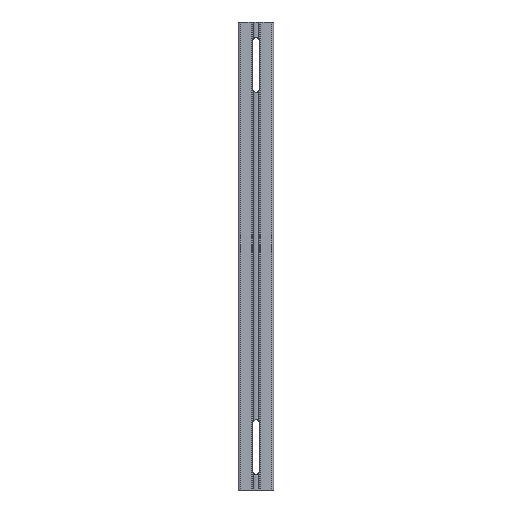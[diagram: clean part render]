
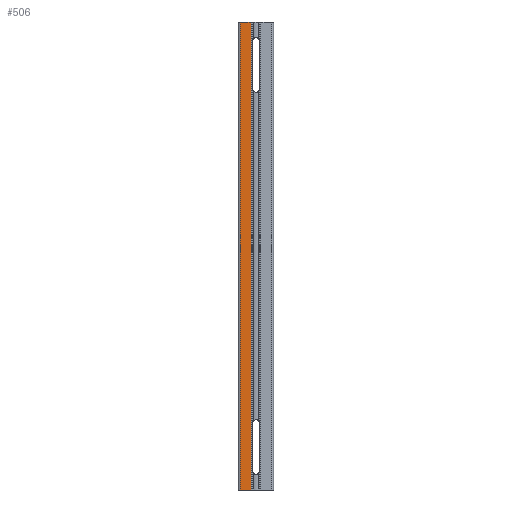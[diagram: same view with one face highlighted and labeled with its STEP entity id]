
A CAD part, left-side view. The second image highlights one B-rep face of the part: STEP entity #506.
In plain terms, the highlighted planar face has unit normal (-1, 0, 0).
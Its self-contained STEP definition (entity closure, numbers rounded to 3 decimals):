
#290=PLANE('',#4869);
#506=ADVANCED_FACE('',(#828),#290,.T.);
#828=FACE_OUTER_BOUND('',#1052,.T.);
#1052=EDGE_LOOP('',(#1548,#1549,#1550,#1551));
#1548=ORIENTED_EDGE('',*,*,#3357,.F.);
#1549=ORIENTED_EDGE('',*,*,#3358,.F.);
#1550=ORIENTED_EDGE('',*,*,#3359,.T.);
#1551=ORIENTED_EDGE('',*,*,#3355,.T.);
#2844=VERTEX_POINT('',#7096);
#2845=VERTEX_POINT('',#7098);
#2846=VERTEX_POINT('',#7102);
#2847=VERTEX_POINT('',#7104);
#3355=EDGE_CURVE('',#2845,#2844,#3936,.T.);
#3357=EDGE_CURVE('',#2846,#2844,#3937,.T.);
#3358=EDGE_CURVE('',#2847,#2846,#3938,.T.);
#3359=EDGE_CURVE('',#2847,#2845,#3939,.T.);
#3936=LINE('',#7097,#4392);
#3937=LINE('',#7101,#4393);
#3938=LINE('',#7103,#4394);
#3939=LINE('',#7105,#4395);
#4392=VECTOR('',#5521,1.);
#4393=VECTOR('',#5526,1.);
#4394=VECTOR('',#5527,1.);
#4395=VECTOR('',#5528,1.);
#4869=AXIS2_PLACEMENT_3D('',#7106,#5529,#5530);
#5521=DIRECTION('',(0.,0.,-1.));
#5526=DIRECTION('',(0.,1.,0.));
#5527=DIRECTION('',(0.,0.,-1.));
#5528=DIRECTION('',(0.,1.,0.));
#5529=DIRECTION('',(-1.,0.,0.));
#5530=DIRECTION('',(0.,-1.,0.));
#7096=CARTESIAN_POINT('',(-22.5,20.,-600.));
#7097=CARTESIAN_POINT('',(-22.5,20.,0.));
#7098=CARTESIAN_POINT('',(-22.5,20.,0.));
#7101=CARTESIAN_POINT('',(-22.5,6.2,-600.));
#7102=CARTESIAN_POINT('',(-22.5,6.2,-600.));
#7103=CARTESIAN_POINT('',(-22.5,6.2,0.));
#7104=CARTESIAN_POINT('',(-22.5,6.2,0.));
#7105=CARTESIAN_POINT('',(-22.5,6.2,0.));
#7106=CARTESIAN_POINT('',(-22.5,6.2,0.));
